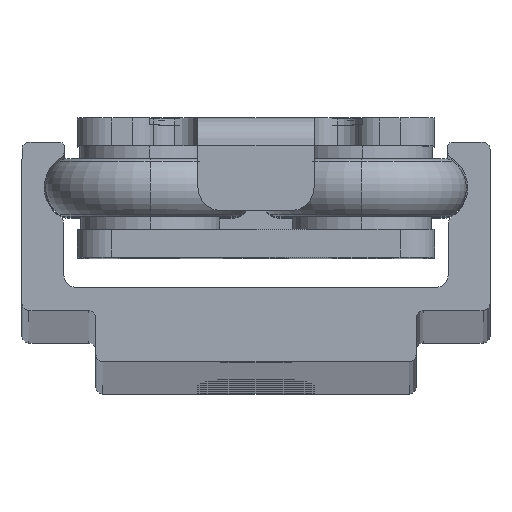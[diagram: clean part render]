
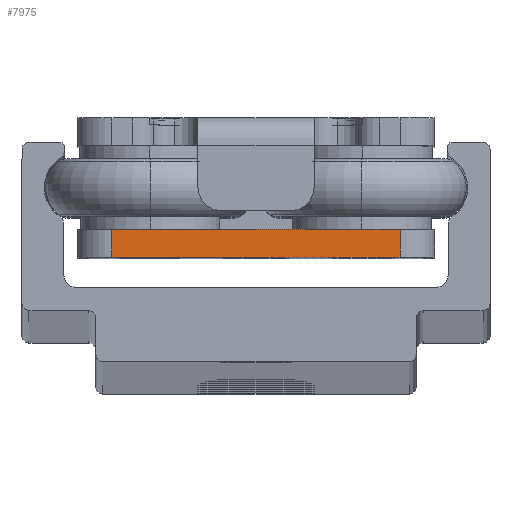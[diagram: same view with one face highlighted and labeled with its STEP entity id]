
A CAD part, top view. The second image highlights one B-rep face of the part: STEP entity #7975.
In plain terms, the highlighted planar face has unit normal (0, 0, 1).
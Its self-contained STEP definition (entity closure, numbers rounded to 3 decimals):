
#597 = VECTOR ( 'NONE', #1377, 1000. ) ;
#721 = CARTESIAN_POINT ( 'NONE',  ( -6.2, -4.8, 20. ) ) ;
#896 = CARTESIAN_POINT ( 'NONE',  ( 6.2, -6., 20. ) ) ;
#1167 = ORIENTED_EDGE ( 'NONE', *, *, #13033, .T. ) ;
#1343 = FACE_OUTER_BOUND ( 'NONE', #3839, .T. ) ;
#1377 = DIRECTION ( 'NONE',  ( -1., 0., 0. ) ) ;
#1700 = VERTEX_POINT ( 'NONE', #896 ) ;
#2013 = ORIENTED_EDGE ( 'NONE', *, *, #5187, .F. ) ;
#2310 = VECTOR ( 'NONE', #13594, 1000. ) ;
#2392 = DIRECTION ( 'NONE',  ( 0., 1., 0. ) ) ;
#2722 = DIRECTION ( 'NONE',  ( 0., -1., 0. ) ) ;
#2748 = AXIS2_PLACEMENT_3D ( 'NONE', #10485, #4961, #13147 ) ;
#2781 = ORIENTED_EDGE ( 'NONE', *, *, #3653, .T. ) ;
#3310 = CARTESIAN_POINT ( 'NONE',  ( 6.2, -6., 20. ) ) ;
#3653 = EDGE_CURVE ( 'NONE', #1700, #5367, #5654, .T. ) ;
#3839 = EDGE_LOOP ( 'NONE', ( #2013, #2781, #1167, #13587 ) ) ;
#4213 = LINE ( 'NONE', #7799, #2310 ) ;
#4961 = DIRECTION ( 'NONE',  ( 0., 0., -1. ) ) ;
#5187 = EDGE_CURVE ( 'NONE', #1700, #13569, #4213, .T. ) ;
#5367 = VERTEX_POINT ( 'NONE', #10475 ) ;
#5654 = LINE ( 'NONE', #3310, #7784 ) ;
#5867 = PLANE ( 'NONE',  #2748 ) ;
#7784 = VECTOR ( 'NONE', #2392, 1000. ) ;
#7799 = CARTESIAN_POINT ( 'NONE',  ( -7.7, -6., 20. ) ) ;
#7975 = ADVANCED_FACE ( 'NONE', ( #1343 ), #5867, .F. ) ;
#8061 = VERTEX_POINT ( 'NONE', #721 ) ;
#8362 = LINE ( 'NONE', #11723, #597 ) ;
#8436 = CARTESIAN_POINT ( 'NONE',  ( -6.2, -6., 20. ) ) ;
#9501 = VECTOR ( 'NONE', #2722, 1000. ) ;
#10475 = CARTESIAN_POINT ( 'NONE',  ( 6.2, -4.8, 20. ) ) ;
#10485 = CARTESIAN_POINT ( 'NONE',  ( -7.7, -6., 20. ) ) ;
#10586 = LINE ( 'NONE', #8436, #9501 ) ;
#11723 = CARTESIAN_POINT ( 'NONE',  ( -7.7, -4.8, 20. ) ) ;
#13016 = EDGE_CURVE ( 'NONE', #8061, #13569, #10586, .T. ) ;
#13033 = EDGE_CURVE ( 'NONE', #5367, #8061, #8362, .T. ) ;
#13147 = DIRECTION ( 'NONE',  ( -1., 0., 0. ) ) ;
#13453 = CARTESIAN_POINT ( 'NONE',  ( -6.2, -6., 20. ) ) ;
#13569 = VERTEX_POINT ( 'NONE', #13453 ) ;
#13587 = ORIENTED_EDGE ( 'NONE', *, *, #13016, .T. ) ;
#13594 = DIRECTION ( 'NONE',  ( -1., 0., 0. ) ) ;
